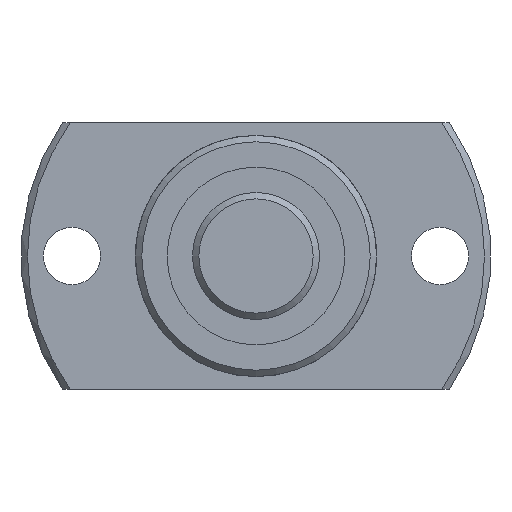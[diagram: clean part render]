
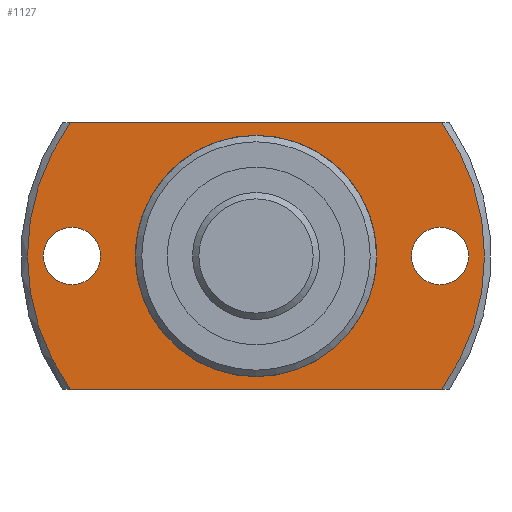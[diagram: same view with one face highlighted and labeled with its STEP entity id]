
A CAD part, left-side view. The second image highlights one B-rep face of the part: STEP entity #1127.
In plain terms, the highlighted planar face has unit normal (-1, 0, 0).
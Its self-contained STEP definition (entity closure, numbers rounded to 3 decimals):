
#116=CIRCLE('',#1248,9.25);
#119=CIRCLE('',#1252,18.);
#125=CIRCLE('',#1263,2.25);
#126=CIRCLE('',#1264,2.25);
#127=CIRCLE('',#1265,18.);
#261=ORIENTED_EDGE('',*,*,#533,.T.);
#262=ORIENTED_EDGE('',*,*,#534,.T.);
#263=ORIENTED_EDGE('',*,*,#522,.F.);
#264=ORIENTED_EDGE('',*,*,#535,.T.);
#265=ORIENTED_EDGE('',*,*,#536,.F.);
#266=ORIENTED_EDGE('',*,*,#537,.T.);
#267=ORIENTED_EDGE('',*,*,#516,.T.);
#516=EDGE_CURVE('',#661,#661,#116,.T.);
#522=EDGE_CURVE('',#666,#667,#119,.T.);
#533=EDGE_CURVE('',#676,#676,#125,.T.);
#534=EDGE_CURVE('',#677,#677,#126,.T.);
#535=EDGE_CURVE('',#666,#678,#751,.T.);
#536=EDGE_CURVE('',#679,#678,#127,.T.);
#537=EDGE_CURVE('',#679,#667,#752,.T.);
#661=VERTEX_POINT('',#1840);
#666=VERTEX_POINT('',#1854);
#667=VERTEX_POINT('',#1856);
#676=VERTEX_POINT('',#1890);
#677=VERTEX_POINT('',#1892);
#678=VERTEX_POINT('',#1894);
#679=VERTEX_POINT('',#1896);
#751=LINE('',#1893,#811);
#752=LINE('',#1897,#812);
#811=VECTOR('',#1504,1000.);
#812=VECTOR('',#1507,1000.);
#891=EDGE_LOOP('',(#261));
#892=EDGE_LOOP('',(#262));
#893=EDGE_LOOP('',(#263,#264,#265,#266));
#894=EDGE_LOOP('',(#267));
#999=FACE_BOUND('',#891,.T.);
#1000=FACE_BOUND('',#892,.T.);
#1001=FACE_BOUND('',#893,.T.);
#1002=FACE_BOUND('',#894,.T.);
#1075=PLANE('',#1262);
#1127=ADVANCED_FACE('',(#999,#1000,#1001,#1002),#1075,.F.);
#1248=AXIS2_PLACEMENT_3D('',#1839,#1466,#1467);
#1252=AXIS2_PLACEMENT_3D('',#1855,#1476,#1477);
#1262=AXIS2_PLACEMENT_3D('',#1888,#1498,#1499);
#1263=AXIS2_PLACEMENT_3D('',#1889,#1500,#1501);
#1264=AXIS2_PLACEMENT_3D('',#1891,#1502,#1503);
#1265=AXIS2_PLACEMENT_3D('',#1895,#1505,#1506);
#1466=DIRECTION('',(1.,0.,0.));
#1467=DIRECTION('',(0.,0.,-1.));
#1476=DIRECTION('',(1.,0.,0.));
#1477=DIRECTION('',(0.,0.,-1.));
#1498=DIRECTION('',(1.,0.,0.));
#1499=DIRECTION('',(0.,0.,-1.));
#1500=DIRECTION('',(1.,0.,0.));
#1501=DIRECTION('',(0.,0.,-1.));
#1502=DIRECTION('',(1.,0.,0.));
#1503=DIRECTION('',(0.,0.,-1.));
#1504=DIRECTION('',(0.,-1.,0.));
#1505=DIRECTION('',(1.,0.,0.));
#1506=DIRECTION('',(0.,0.,-1.));
#1507=DIRECTION('',(0.,1.,0.));
#1839=CARTESIAN_POINT('',(13.,0.,0.));
#1840=CARTESIAN_POINT('',(13.,0.,-9.25));
#1854=CARTESIAN_POINT('',(13.,14.62,-10.5));
#1855=CARTESIAN_POINT('',(13.,0.,0.));
#1856=CARTESIAN_POINT('',(13.,14.62,10.5));
#1888=CARTESIAN_POINT('',(13.,9.25,0.));
#1889=CARTESIAN_POINT('',(13.,-14.5,0.));
#1890=CARTESIAN_POINT('',(13.,-14.5,-2.25));
#1891=CARTESIAN_POINT('',(13.,14.5,0.));
#1892=CARTESIAN_POINT('',(13.,14.5,-2.25));
#1893=CARTESIAN_POINT('',(13.,9.25,-10.5));
#1894=CARTESIAN_POINT('',(13.,-14.62,-10.5));
#1895=CARTESIAN_POINT('',(13.,0.,0.));
#1896=CARTESIAN_POINT('',(13.,-14.62,10.5));
#1897=CARTESIAN_POINT('',(13.,9.25,10.5));
